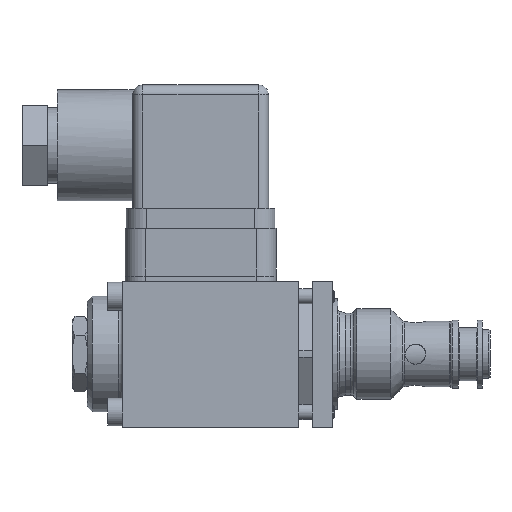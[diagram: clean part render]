
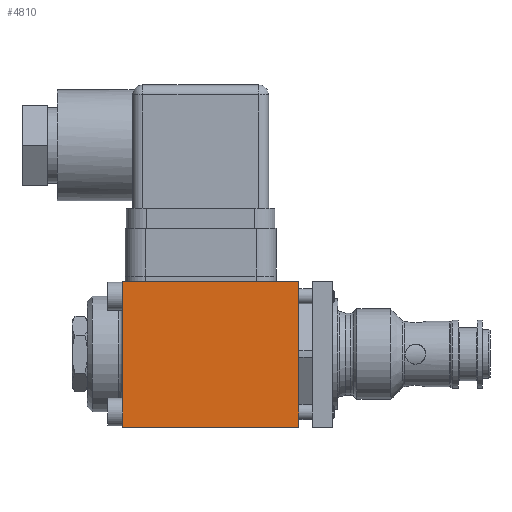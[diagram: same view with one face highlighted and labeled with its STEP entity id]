
A CAD part, front view. The second image highlights one B-rep face of the part: STEP entity #4810.
In plain terms, the highlighted planar face has unit normal (0, -1, 0).
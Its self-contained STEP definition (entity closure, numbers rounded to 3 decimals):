
#4810=ADVANCED_FACE('', (#4820), #4830, .T.);
#21020=AXIS2_PLACEMENT_3D('Ax2Pl3d', #21030, #21040, #21050);
#69690=CARTESIAN_POINT('', (35.,0.,29.));
#69700=CARTESIAN_POINT('', (35.,0.,29.));
#69710=CARTESIAN_POINT('', (35.,0.,0.));
#69800=CARTESIAN_POINT('', (0.,0.,29.));
#69820=CARTESIAN_POINT('', (35.,0.,29.));
#69940=CARTESIAN_POINT('', (0.,0.,29.));
#69950=CARTESIAN_POINT('', (0.,0.,0.));
#21030=CARTESIAN_POINT('HicPkt', (0.,0.,
0.));
#70050=CARTESIAN_POINT('', (35.,0.,0.));
#80380=DIRECTION('', (0.,0.,1.));
#80410=DIRECTION('', (1.,0.,0.));
#80430=DIRECTION('', (0.,0.,1.));
#21040=DIRECTION('Axis', (0.,-1.,0.)
);
#21050=DIRECTION('RefDirection', (0.,
0.,-1.));
#80460=DIRECTION('', (1.,0.,0.));
#87400=EDGE_CURVE('', #87410, #87380, #87420, .T.);
#87610=EDGE_CURVE('', #87580, #87380, #87620, .T.);
#87850=EDGE_CURVE('', #87860, #87580, #87870, .T.);
#88050=EDGE_CURVE('', #87860, #87410, #88060, .T.);
#105340=EDGE_LOOP('Edge_loop', (#105350,#105360,#105370,#105380));
#4820=FACE_OUTER_BOUND('Face_outer_bound', #105340, .T.);
#87420=LINE('Line', #69700, #120720);
#87620=LINE('Line', #69820, #120750);
#87870=LINE('Line', #69940, #120770);
#88060=LINE('Line', #70050, #120800);
#105350=ORIENTED_EDGE('', *, *, #87850, .F.);
#105360=ORIENTED_EDGE('', *, *, #88050, .T.);
#105370=ORIENTED_EDGE('', *, *, #87400, .T.);
#105380=ORIENTED_EDGE('', *, *, #87610, .F.);
#4830=PLANE('Plane', #21020);
#120720=VECTOR('', #80380, 29.);
#120750=VECTOR('', #80410, 35.);
#120770=VECTOR('', #80430, 29.);
#120800=VECTOR('', #80460, 35.);
#87380=VERTEX_POINT('', #69690);
#87410=VERTEX_POINT('', #69710);
#87580=VERTEX_POINT('', #69800);
#87860=VERTEX_POINT('', #69950);
